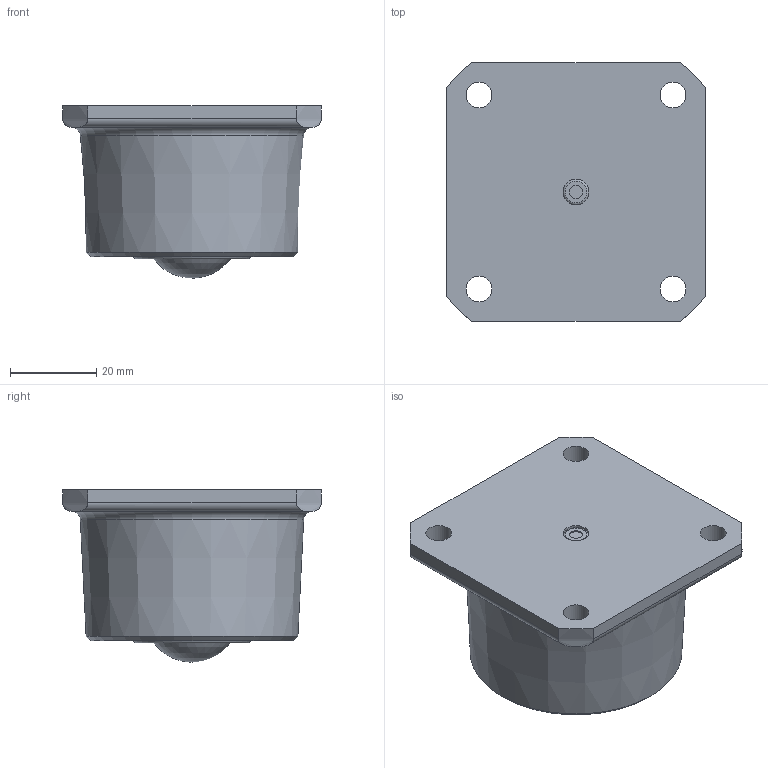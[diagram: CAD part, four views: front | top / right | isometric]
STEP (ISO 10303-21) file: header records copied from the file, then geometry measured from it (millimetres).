
FILE_DESCRIPTION(/* description */ (''),/* implementation_level */ '2;1');
FILE_NAME(/* name */ 'Z:\80-CAD共有ファイル\製品3D\X2\30C730FC30BF\X0\\11-IK\IK-22.stp',/* time_stamp */ '2015-01-07T09:33:10+09:00',/* author */ ('yamaki'),/* organization */ (''),/* preprocessor_version */ 'ST-DEVELOPER v15.6',/* originating_system */ 'Autodesk Inventor 2015',/* authorisation */ '');
FILE_SCHEMA (('AUTOMOTIVE_DESIGN { 1 0 10303 214 3 1 1 }'));
Length unit declared in the file: millimetre
Products named in the file (1): 1122AA
Bounding box: 60 x 60 x 40 mm (x, y, z)
Volume: 74266.9 mm3; surface area: 14171.9 mm2
Topology: 1 solids, 1 shells, 58 faces, 142 edges, 93 vertices
Faces by surface type: cylinder 26, plane 21, torus 6, cone 4, sphere 1
Full cylindrical faces by diameter (mm): 2.5 x2, 3 x1, 6 x5, 19.687 x1, 27 x1, 40 x1
Entity records: 1711 total; most frequent: CARTESIAN_POINT 341, DIRECTION 280, ORIENTED_EDGE 220, AXIS2_PLACEMENT_3D 119, EDGE_CURVE 110, EDGE_LOOP 98, VERTEX_POINT 84, CIRCLE 60
